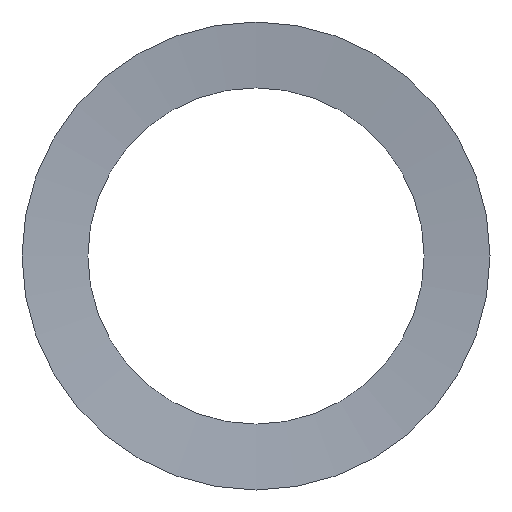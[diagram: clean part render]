
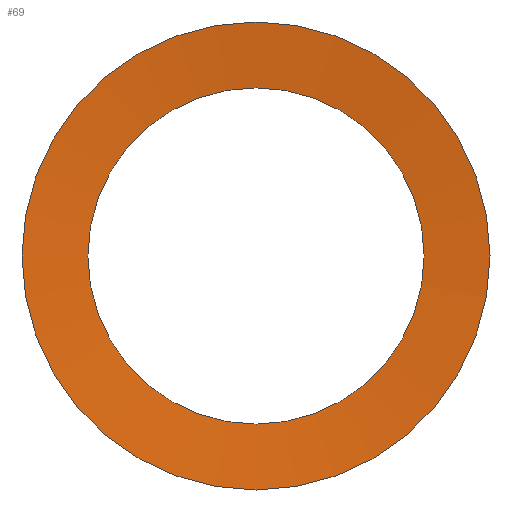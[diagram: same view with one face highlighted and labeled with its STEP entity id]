
A CAD part, front view. The second image highlights one B-rep face of the part: STEP entity #69.
In plain terms, the highlighted conical face has half-angle 84.731 degrees and reference radius 51.125 mm.
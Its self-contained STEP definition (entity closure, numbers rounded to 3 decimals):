
#19=FACE_OUTER_BOUND('',#23,.T.);
#23=EDGE_LOOP('',(#57,#58,#59,#60));
#27=LINE('',#137,#31);
#31=VECTOR('',#118,51.125);
#35=CIRCLE('',#98,42.75);
#36=CIRCLE('',#100,59.5);
#39=VERTEX_POINT('',#132);
#40=VERTEX_POINT('',#136);
#45=EDGE_CURVE('',#39,#39,#35,.T.);
#46=EDGE_CURVE('',#39,#40,#27,.T.);
#47=EDGE_CURVE('',#40,#40,#36,.T.);
#57=ORIENTED_EDGE('',*,*,#45,.T.);
#58=ORIENTED_EDGE('',*,*,#46,.T.);
#59=ORIENTED_EDGE('',*,*,#47,.F.);
#60=ORIENTED_EDGE('',*,*,#46,.F.);
#66=CONICAL_SURFACE('',#99,51.125,1.479);
#69=ADVANCED_FACE('',(#19),#66,.F.);
#98=AXIS2_PLACEMENT_3D('',#134,#114,#115);
#99=AXIS2_PLACEMENT_3D('',#135,#116,#117);
#100=AXIS2_PLACEMENT_3D('',#138,#119,#120);
#114=DIRECTION('center_axis',(0.,1.,0.));
#115=DIRECTION('ref_axis',(1.,0.,0.));
#116=DIRECTION('center_axis',(0.,-1.,0.));
#117=DIRECTION('ref_axis',(0.,0.,-1.));
#118=DIRECTION('',(0.,-0.092,0.996));
#119=DIRECTION('center_axis',(0.,1.,0.));
#120=DIRECTION('ref_axis',(1.,0.,0.));
#132=CARTESIAN_POINT('',(0.,1.545,42.75));
#134=CARTESIAN_POINT('Origin',(0.,1.545,0.));
#135=CARTESIAN_POINT('Origin',(0.,0.772,0.));
#136=CARTESIAN_POINT('',(0.,0.,59.5));
#137=CARTESIAN_POINT('',(0.,0.772,51.125));
#138=CARTESIAN_POINT('Origin',(0.,0.,0.));
